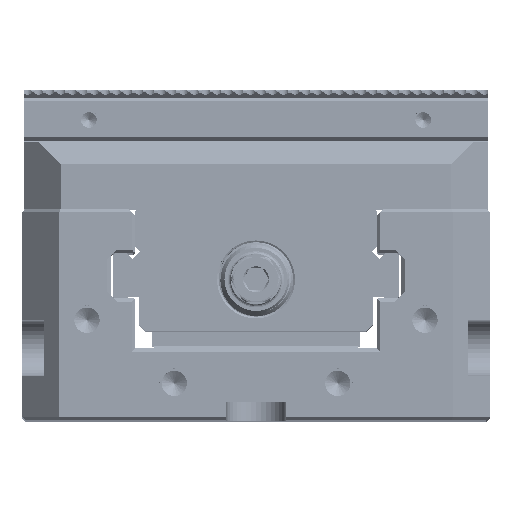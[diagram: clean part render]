
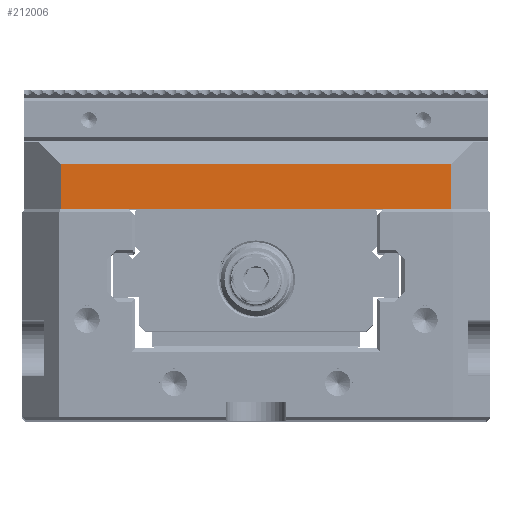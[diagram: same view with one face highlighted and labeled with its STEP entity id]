
A CAD part, top view. The second image highlights one B-rep face of the part: STEP entity #212006.
In plain terms, the highlighted planar face has unit normal (0, 0, 1).
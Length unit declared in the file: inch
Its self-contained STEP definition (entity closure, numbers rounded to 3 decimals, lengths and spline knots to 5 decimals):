
#822 = DIRECTION ( 'NONE',  ( -1., 0., 0. ) ) ;
#1040 = VERTEX_POINT ( 'NONE', #29464 ) ;
#1873 = CARTESIAN_POINT ( 'NONE',  ( -2.46063, 2.24409, 3.15574 ) ) ;
#13299 = EDGE_CURVE ( 'NONE', #1040, #227563, #140212, .T. ) ;
#13447 = DIRECTION ( 'NONE',  ( 0., 1., 0. ) ) ;
#29464 = CARTESIAN_POINT ( 'NONE',  ( -2.06693, 2.71654, 3.15574 ) ) ;
#32645 = CARTESIAN_POINT ( 'NONE',  ( -2.06693, 2.24409, 3.15574 ) ) ;
#40209 = ORIENTED_EDGE ( 'NONE', *, *, #177796, .T. ) ;
#40233 = AXIS2_PLACEMENT_3D ( 'NONE', #75674, #206304, #822 ) ;
#42731 = ORIENTED_EDGE ( 'NONE', *, *, #191857, .T. ) ;
#44121 = VECTOR ( 'NONE', #13447, 39.37008 ) ;
#46742 = CARTESIAN_POINT ( 'NONE',  ( -2.46063, 2.71654, 3.15574 ) ) ;
#66181 = CARTESIAN_POINT ( 'NONE',  ( 2.06693, 2.24409, 3.15574 ) ) ;
#67151 = CARTESIAN_POINT ( 'NONE',  ( 2.06693, 3.50394, 3.15574 ) ) ;
#74261 = EDGE_CURVE ( 'NONE', #193361, #1040, #218199, .T. ) ;
#75674 = CARTESIAN_POINT ( 'NONE',  ( -2.46063, 2.24409, 3.15574 ) ) ;
#103760 = DIRECTION ( 'NONE',  ( 0., 1., 0. ) ) ;
#105332 = DIRECTION ( 'NONE',  ( 1., 0., 0. ) ) ;
#132740 = DIRECTION ( 'NONE',  ( 1., 0., 0. ) ) ;
#133620 = VERTEX_POINT ( 'NONE', #66181 ) ;
#140212 = LINE ( 'NONE', #46742, #243301 ) ;
#142198 = ORIENTED_EDGE ( 'NONE', *, *, #13299, .F. ) ;
#144691 = CARTESIAN_POINT ( 'NONE',  ( 2.06693, 2.71654, 3.15574 ) ) ;
#162850 = EDGE_LOOP ( 'NONE', ( #42731, #142198, #234062, #40209 ) ) ;
#162885 = PLANE ( 'NONE',  #40233 ) ;
#177796 = EDGE_CURVE ( 'NONE', #193361, #133620, #226106, .T. ) ;
#181592 = FACE_OUTER_BOUND ( 'NONE', #162850, .T. ) ;
#191857 = EDGE_CURVE ( 'NONE', #133620, #227563, #237708, .T. ) ;
#192063 = VECTOR ( 'NONE', #132740, 39.37008 ) ;
#193361 = VERTEX_POINT ( 'NONE', #227004 ) ;
#206304 = DIRECTION ( 'NONE',  ( 0., 0., -1. ) ) ;
#212006 = ADVANCED_FACE ( 'NONE', ( #181592 ), #162885, .F. ) ;
#218199 = LINE ( 'NONE', #32645, #229245 ) ;
#226106 = LINE ( 'NONE', #1873, #192063 ) ;
#227004 = CARTESIAN_POINT ( 'NONE',  ( -2.06693, 2.24409, 3.15574 ) ) ;
#227563 = VERTEX_POINT ( 'NONE', #144691 ) ;
#229245 = VECTOR ( 'NONE', #103760, 39.37008 ) ;
#234062 = ORIENTED_EDGE ( 'NONE', *, *, #74261, .F. ) ;
#237708 = LINE ( 'NONE', #67151, #44121 ) ;
#243301 = VECTOR ( 'NONE', #105332, 39.37008 ) ;
